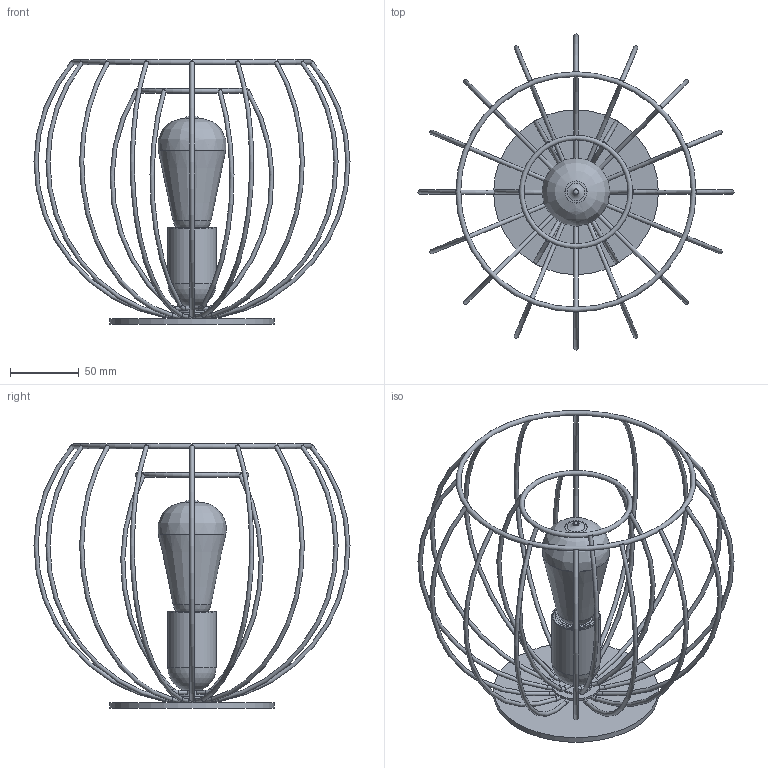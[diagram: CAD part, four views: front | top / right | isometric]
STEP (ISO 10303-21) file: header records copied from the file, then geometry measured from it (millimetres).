
FILE_DESCRIPTION(/* description */ (''),/* implementation_level */ '2;1');
FILE_NAME(/* name */ 'C:/Users/Jakub Wieczorkowski/Desktop/STEP/JAULA_5283 v7 v2 v1.step',/* time_stamp */ '2022-02-22T09:04:38+01:00',/* author */ (''),/* organization */ (''),/* preprocessor_version */ 'ST-DEVELOPER v18.1',/* originating_system */ 'Autodesk Translation Framework v10.13.0.1454',/* authorisation */ '');
FILE_SCHEMA (('AUTOMOTIVE_DESIGN { 1 0 10303 214 3 1 1 }'));
Length unit declared in the file: millimetre
Products named in the file (2): JAULA_5283 v7 v2; JAULA_OPRAWA v5
Assembly tree (1 placements, depth 2):
  JAULA_5283 v7 v2
    JAULA_OPRAWA v5
Bounding box: 230.05 x 230.05 x 192.38 mm (x, y, z)
Volume: 145153.2 mm3; surface area: 120136.5 mm2
Topology: 37 solids, 37 shells, 179 faces, 295 edges, 188 vertices
Faces by surface type: plane 66, torus 51, cylinder 33, cone 16, bspline 9, sphere 4
Full cylindrical faces by diameter (mm): 1.217 x4, 3 x22, 6.084 x1, 10 x1, 23.801 x1, 33.93 x1, 35 x1, 35.1 x1, 120 x1
Entity records: 4647 total; most frequent: CARTESIAN_POINT 1037, DIRECTION 867, ORIENTED_EDGE 586, AXIS2_PLACEMENT_3D 409, EDGE_CURVE 293, CIRCLE 236, VERTEX_POINT 188, EDGE_LOOP 183
